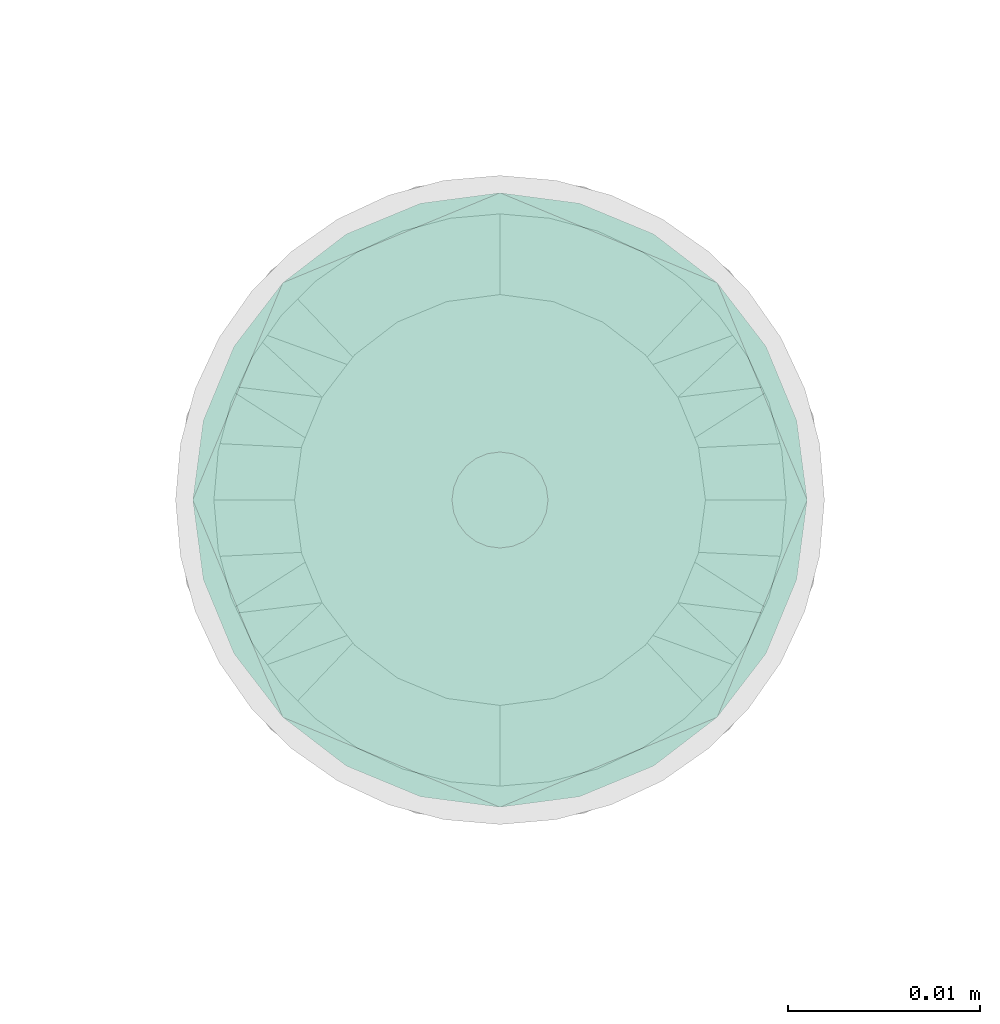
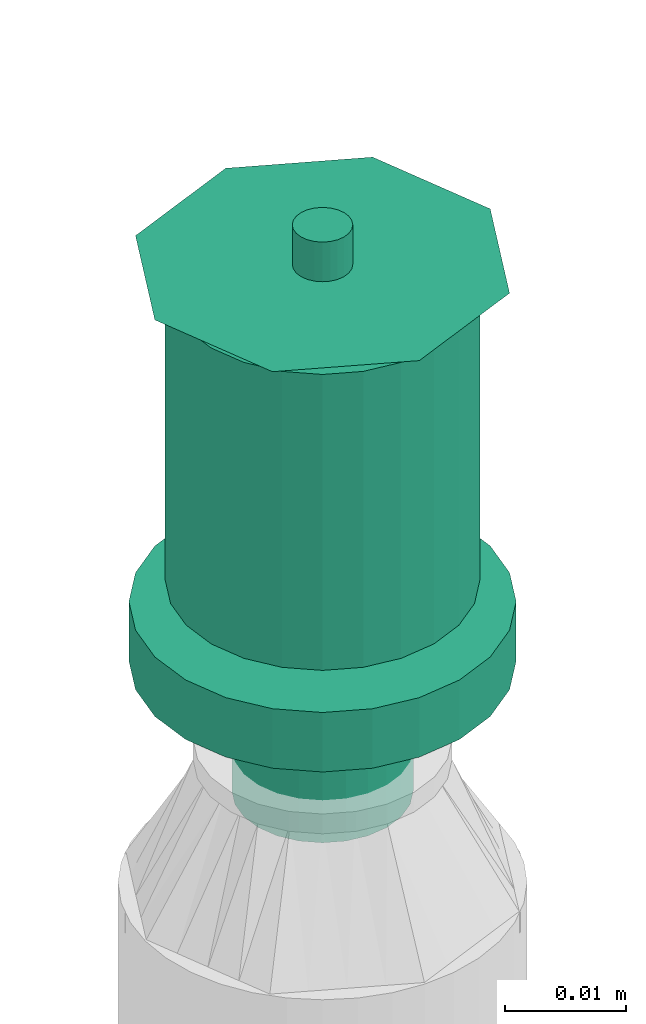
# One storey, part 14 of 44: 1 flow terminal.
"""IFC2X3 building model written with IfcOpenShell, lengths in millimetres."""

from ifc_helpers import new_model, entity, si_unit, converted_unit, derived_unit, direction, frame, origin_with_axes, place, context, subcontext, project, spatial, open_shell, surface_model, source, transform, mapped, type_object, element, save


model = new_model("IFC2X3")

# Units and contexts
model_context = context("Model", 3, precision=0.01, world=frame((0.0, 4.29681676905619e-09, 0.0)), true_north=direction((4.01073788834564e-13, 1.0)))
plan_context = context("Plan", 3, precision=0.01, world=frame((0.0, 4.29681676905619e-09, 0.0)), true_north=direction((4.01073788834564e-13, 1.0)))
body_context = subcontext(model_context, "Body", "Model", "MODEL_VIEW")
ifc_project = project(units=[converted_unit("PLANEANGLEUNIT", "DEGREE", entity("IfcPositiveLengthMeasure", 0.0174532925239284), si_unit("PLANEANGLEUNIT", "RADIAN"), dimensions=[0, 0, 0, 0, 0, 0, 0]), si_unit("AREAUNIT", "SQUARE_METRE"), si_unit("LENGTHUNIT", "METRE", prefix="MILLI"), si_unit("MASSUNIT", "GRAM", prefix="KILO"), si_unit("POWERUNIT", "WATT"), si_unit("PRESSUREUNIT", "PASCAL"), si_unit("FORCEUNIT", "NEWTON", prefix="KILO"), si_unit("ELECTRICVOLTAGEUNIT", "VOLT"), si_unit("ELECTRICCURRENTUNIT", "AMPERE"), si_unit("THERMODYNAMICTEMPERATUREUNIT", "DEGREE_CELSIUS"), si_unit("TIMEUNIT", "SECOND"), si_unit("VOLUMEUNIT", "CUBIC_METRE"), derived_unit("LINEARVELOCITYUNIT", [(si_unit("LENGTHUNIT", "METRE"), 1), (si_unit("TIMEUNIT", "SECOND"), -1)]), derived_unit("VOLUMETRICFLOWRATEUNIT", [(si_unit("VOLUMEUNIT", "CUBIC_METRE"), 1), (si_unit("TIMEUNIT", "SECOND"), -1)]), derived_unit("THERMALTRANSMITTANCEUNIT", [(si_unit("POWERUNIT", "WATT"), 1), (si_unit("THERMODYNAMICTEMPERATUREUNIT", "KELVIN"), -1), (si_unit("AREAUNIT", "SQUARE_METRE"), -1)]), derived_unit("SOUNDPRESSUREUNIT", [(si_unit("PRESSUREUNIT", "PASCAL"), 1)])], contexts=[model_context, plan_context])

# Site, building, storey
site_placement = place(None, frame((0.0, -4.29681676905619e-09, 0.0), z_axis=(0.0, 0.0, 1.0), x_axis=(1.0, 0.0, 0.0)))
site = spatial("IfcSite", under=ifc_project, at=site_placement, CompositionType="ELEMENT")
building_placement = place(site_placement, frame((0.0, 4.29681676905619e-09, 0.0), z_axis=(0.0, 0.0, 1.0), x_axis=(1.0, 0.0, 0.0)))
building = spatial("IfcBuilding", under=site, at=building_placement, Name="mc-building", CompositionType="ELEMENT")
storey_placement = place(building_placement, frame((0.0, 0.0, 207370.0), z_axis=(0.0, 0.0, 1.0), x_axis=(1.0, 0.0, 0.0)))
storey = spatial("IfcBuildingStorey", under=building, at=storey_placement, Name="Nivå E", CompositionType="ELEMENT", Elevation=207370.0)

# Flow terminal
fire_suppression_terminal_type = type_object("IfcFireSuppressionTerminalType", Name="68DGR-STD-STÅENDE", PredefinedType="NOTDEFINED")
shared_shape = source(origin_with_axes(), body_context, "Body", "SurfaceModel", [
    surface_model("IfcShellBasedSurfaceModel", [(3.36465, -12.55704, 51.0), (6.5, -11.25833, 51.0), (9.19239, -9.19239, 51.0), (12.55704, -3.36465, 51.0), (-11.25833, -6.5, 51.0), (11.25833, -6.5, 51.0), (-13.0, 0.0, 51.0), (0.0, -13.0, 51.0), (-6.5, -11.25833, 51.0), (-3.36465, -12.55704, 51.0), (-9.19239, -9.19239, 51.0), (-12.55704, -3.36465, 51.0), (13.0, 0.0, 51.0), (12.55704, 3.36465, 51.0), (11.25833, 6.5, 51.0), (9.19239, 9.19239, 51.0), (6.5, 11.25833, 51.0), (3.36465, 12.55704, 51.0), (0.0, 13.0, 51.0), (-3.36465, 12.55704, 51.0), (-12.55704, 3.36465, 51.0), (-9.19239, 9.19239, 51.0), (-11.25833, 6.5, 51.0), (-6.5, 11.25833, 51.0), (0.0, 13.0, 21.14766), (3.36465, 12.55704, 21.14766), (6.5, 11.25833, 21.14766), (-3.36465, 12.55704, 21.14766), (9.19239, 9.19239, 21.14766), (11.25833, 6.5, 21.14766), (12.55704, 3.36465, 21.14766), (-12.55704, 3.36465, 21.14766), (-11.25833, -6.5, 21.14766), (-9.19239, 9.19239, 21.14766), (-6.5, 11.25833, 21.14766), (-11.25833, 6.5, 21.14766), (-13.0, 0.0, 21.14766), (12.55704, -3.36465, 21.14766), (9.19239, -9.19239, 21.14766), (11.25833, -6.5, 21.14766), (6.5, -11.25833, 21.14766), (3.36465, -12.55704, 21.14766), (-6.5, -11.25833, 21.14766), (-9.19239, -9.19239, 21.14766), (-12.55704, -3.36465, 21.14766), (0.0, -13.0, 21.14766), (-3.36465, -12.55704, 21.14766), (13.0, 0.0, 21.14766), (7.24444, -1.94114, 0.1), (1.94114, -7.24444, 0.1), (3.75, -6.49519, 0.1), (5.3033, -5.3033, 0.1), (-5.3033, -5.3033, 0.1), (6.49519, -3.75, 0.1), (5.3033, 5.3033, 0.1), (0.0, -7.5, 0.1), (-3.75, -6.49519, 0.1), (-1.94114, -7.24444, 0.1), (-7.24444, -1.94114, 0.1), (-6.49519, -3.75, 0.1), (-7.24444, 1.94114, 0.1), (7.5, 0.0, 0.1), (6.49519, 3.75, 0.1), (-6.49519, 3.75, 0.1), (1.94114, 7.24444, 0.1), (0.0, 7.5, 0.1), (3.75, 6.49519, 0.1), (-7.5, 0.0, 0.1), (-5.3033, 5.3033, 0.1), (-1.94114, 7.24444, 0.1), (-3.75, 6.49519, 0.1), (7.24444, 1.94114, 0.1), (1.94114, 7.24444, -0.1), (-6.49519, 3.75, -0.1), (0.0, 7.5, -0.1), (5.3033, 5.3033, -0.1), (3.75, 6.49519, -0.1), (6.49519, 3.75, -0.1), (7.24444, 1.94114, -0.1), (-1.94114, 7.24444, -0.1), (-5.3033, 5.3033, -0.1), (-3.75, 6.49519, -0.1), (-7.24444, 1.94114, -0.1), (-7.24444, -1.94114, -0.1), (-7.5, 0.0, -0.1), (7.5, 0.0, -0.1), (7.24444, -1.94114, -0.1), (-5.3033, -5.3033, -0.1), (1.94114, -7.24444, -0.1), (6.49519, -3.75, -0.1), (5.3033, -5.3033, -0.1), (3.75, -6.49519, -0.1), (-6.49519, -3.75, -0.1), (-3.75, -6.49519, -0.1), (0.0, -7.5, -0.1), (-1.94114, -7.24444, -0.1), (0.0, -2.5, 51.0), (-2.5, 0.0, 51.0), (0.0, 2.5, 51.0), (2.5, 0.0, 51.0), (0.0, -16.0, 53.0), (11.31371, -11.31371, 53.0), (-11.31371, -11.31371, 53.0), (-16.0, 0.0, 53.0), (16.0, 0.0, 53.0), (11.31371, 11.31371, 53.0), (0.0, 16.0, 53.0), (-11.31371, 11.31371, 53.0), (1.25, -2.16506, 57.0), (0.0, -2.5, 57.0), (0.64705, -2.41481, 57.0), (2.41481, -0.64705, 57.0), (1.76777, -1.76777, 57.0), (-2.41481, -0.64705, 57.0), (-2.5, 0.0, 57.0), (2.16506, -1.25, 57.0), (-1.25, -2.16506, 57.0), (-0.64705, -2.41481, 57.0), (-1.76777, -1.76777, 57.0), (-2.16506, -1.25, 57.0), (2.5, 0.0, 57.0), (2.41481, 0.64705, 57.0), (2.16506, 1.25, 57.0), (1.76777, 1.76777, 57.0), (0.64705, 2.41481, 57.0), (1.25, 2.16506, 57.0), (-1.76777, 1.76777, 57.0), (0.0, 2.5, 57.0), (-2.16506, 1.25, 57.0), (-2.41481, 0.64705, 57.0), (-0.64705, 2.41481, 57.0), (-1.25, 2.16506, 57.0), (1.25, 2.16506, 51.0), (1.76777, 1.76777, 51.0), (1.15, 1.99186, 51.0), (0.59528, 2.22163, 51.0), (0.64705, 2.41481, 51.0), (0.0, 2.3, 51.0), (1.62635, 1.62635, 51.0), (2.41481, 0.64705, 51.0), (2.3, 0.0, 51.0), (2.22163, 0.59528, 51.0), (2.16506, 1.25, 51.0), (1.99186, 1.15, 51.0), (-0.59528, 2.22163, 51.0), (-0.64705, 2.41481, 51.0), (-1.15, 1.99186, 51.0), (-1.76777, 1.76777, 51.0), (-1.25, 2.16506, 51.0), (-1.62635, 1.62635, 51.0), (-1.99186, 1.15, 51.0), (-2.16506, 1.25, 51.0), (-2.22163, 0.59528, 51.0), (-2.41481, 0.64705, 51.0), (-2.3, 0.0, 51.0), (2.41481, -0.64705, 51.0), (2.22163, -0.59528, 51.0), (1.99186, -1.15, 51.0), (2.16506, -1.25, 51.0), (1.62635, -1.62635, 51.0), (1.76777, -1.76777, 51.0), (1.25, -2.16506, 51.0), (1.15, -1.99186, 51.0), (0.59528, -2.22163, 51.0), (0.64705, -2.41481, 51.0), (0.0, -2.3, 51.0), (-2.16506, -1.25, 51.0), (-1.99186, -1.15, 51.0), (-1.76777, -1.76777, 51.0), (-1.62635, -1.62635, 51.0), (-2.41481, -0.64705, 51.0), (-2.22163, -0.59528, 51.0), (-0.59528, -2.22163, 51.0), (-0.64705, -2.41481, 51.0), (-1.15, -1.99186, 51.0), (-1.25, -2.16506, 51.0), (1.62635, -1.62635, 56.8), (1.15, -1.99186, 56.8), (0.59528, -2.22163, 56.8), (0.0, -2.3, 56.8), (2.22163, 0.59528, 56.8), (1.99186, -1.15, 56.8), (2.22163, -0.59528, 56.8), (-0.59528, -2.22163, 56.8), (-1.15, -1.99186, 56.8), (-1.62635, -1.62635, 56.8), (-1.99186, -1.15, 56.8), (-2.22163, -0.59528, 56.8), (-1.99186, 1.15, 56.8), (2.3, 0.0, 56.8), (1.62635, 1.62635, 56.8), (1.99186, 1.15, 56.8), (1.15, 1.99186, 56.8), (0.0, 2.3, 56.8), (0.59528, 2.22163, 56.8), (-2.22163, 0.59528, 56.8), (-2.3, 0.0, 56.8), (-1.15, 1.99186, 56.8), (-0.59528, 2.22163, 56.8), (-1.62635, 1.62635, 56.8), (4.1411, -15.45481, 19.0), (8.0, -13.85641, 19.0), (11.31371, -11.31371, 19.0), (-8.0, -13.85641, 19.0), (15.45481, -4.1411, 19.0), (16.0, 0.0, 19.0), (13.85641, -8.0, 19.0), (0.0, -16.0, 19.0), (-4.1411, -15.45481, 19.0), (-13.85641, -8.0, 19.0), (-11.31371, -11.31371, 19.0), (-15.45481, -4.1411, 19.0), (15.45481, 4.1411, 19.0), (13.85641, 8.0, 19.0), (11.31371, 11.31371, 19.0), (-4.1411, 15.45481, 19.0), (8.0, 13.85641, 19.0), (4.1411, 15.45481, 19.0), (0.0, 16.0, 19.0), (-13.85641, 8.0, 19.0), (-15.45481, 4.1411, 19.0), (-16.0, 0.0, 19.0), (-11.31371, 11.31371, 19.0), (-8.0, 13.85641, 19.0), (0.0, 16.0, 13.0), (4.1411, 15.45481, 13.0), (8.0, 13.85641, 13.0), (-4.1411, 15.45481, 13.0), (11.31371, 11.31371, 13.0), (13.85641, 8.0, 13.0), (15.45481, 4.1411, 13.0), (-15.45481, -4.1411, 13.0), (-11.31371, 11.31371, 13.0), (-8.0, 13.85641, 13.0), (-13.85641, 8.0, 13.0), (-15.45481, 4.1411, 13.0), (-16.0, 0.0, 13.0), (4.1411, -15.45481, 13.0), (16.0, 0.0, 13.0), (15.45481, -4.1411, 13.0), (13.85641, -8.0, 13.0), (11.31371, -11.31371, 13.0), (8.0, -13.85641, 13.0), (-8.0, -13.85641, 13.0), (-13.85641, -8.0, 13.0), (-11.31371, -11.31371, 13.0), (0.0, -16.0, 13.0), (-4.1411, -15.45481, 13.0), (7.24444, -1.94114, 13.0), (1.94114, -7.24444, 13.0), (3.75, -6.49519, 13.0), (5.3033, -5.3033, 13.0), (-5.3033, -5.3033, 13.0), (6.49519, -3.75, 13.0), (5.3033, 5.3033, 13.0), (0.0, -7.5, 13.0), (-3.75, -6.49519, 13.0), (-1.94114, -7.24444, 13.0), (-7.24444, -1.94114, 13.0), (-6.49519, -3.75, 13.0), (-7.24444, 1.94114, 13.0), (7.5, 0.0, 13.0), (6.49519, 3.75, 13.0), (-6.49519, 3.75, 13.0), (1.94114, 7.24444, 13.0), (0.0, 7.5, 13.0), (3.75, 6.49519, 13.0), (-7.5, 0.0, 13.0), (-5.3033, 5.3033, 13.0), (-1.94114, 7.24444, 13.0), (-3.75, 6.49519, 13.0), (7.24444, 1.94114, 13.0), (3.75, 6.49519, 0.0), (5.3033, 5.3033, 0.0), (3.65, 6.32199, 0.0), (1.88938, 7.05126, 0.0), (0.0, 7.3, 0.0), (1.94114, 7.24444, 0.0), (0.0, 7.5, 0.0), (5.16188, 5.16188, 0.0), (7.24444, 1.94114, 0.0), (7.3, 0.0, 0.0), (7.05126, 1.88938, 0.0), (7.5, 0.0, 0.0), (6.49519, 3.75, 0.0), (6.32199, 3.65, 0.0), (-1.88938, 7.05126, 0.0), (-1.94114, 7.24444, 0.0), (-3.65, 6.32199, 0.0), (-5.3033, 5.3033, 0.0), (-3.75, 6.49519, 0.0), (-5.16188, 5.16188, 0.0), (-6.32199, 3.65, 0.0), (-6.49519, 3.75, 0.0), (-7.05126, 1.88938, 0.0), (-7.24444, 1.94114, 0.0), (-7.3, 0.0, 0.0), (-7.5, 0.0, 0.0), (7.24444, -1.94114, 0.0), (7.05126, -1.88938, 0.0), (6.32199, -3.65, 0.0), (6.49519, -3.75, 0.0), (5.16188, -5.16188, 0.0), (5.3033, -5.3033, 0.0), (3.75, -6.49519, 0.0), (3.65, -6.32199, 0.0), (1.88938, -7.05126, 0.0), (1.94114, -7.24444, 0.0), (0.0, -7.3, 0.0), (0.0, -7.5, 0.0), (-6.49519, -3.75, 0.0), (-6.32199, -3.65, 0.0), (-5.3033, -5.3033, 0.0), (-5.16188, -5.16188, 0.0), (-7.24444, -1.94114, 0.0), (-7.05126, -1.88938, 0.0), (-1.88938, -7.05126, 0.0), (-1.94114, -7.24444, 0.0), (-3.65, -6.32199, 0.0), (-3.75, -6.49519, 0.0), (1.88938, -7.05126, 12.8), (0.0, -7.3, 12.8), (3.65, -6.32199, 12.8), (5.16188, -5.16188, 12.8), (6.32199, -3.65, 12.8), (7.05126, 1.88938, 12.8), (7.05126, -1.88938, 12.8), (-5.16188, -5.16188, 12.8), (-1.88938, -7.05126, 12.8), (-3.65, -6.32199, 12.8), (-6.32199, -3.65, 12.8), (-7.05126, -1.88938, 12.8), (0.0, 7.3, 12.8), (7.3, 0.0, 12.8), (6.32199, 3.65, 12.8), (5.16188, 5.16188, 12.8), (3.65, 6.32199, 12.8), (1.88938, 7.05126, 12.8), (-6.32199, 3.65, 12.8), (-7.05126, 1.88938, 12.8), (-7.3, 0.0, 12.8), (-3.65, 6.32199, 12.8), (-1.88938, 7.05126, 12.8), (-5.16188, 5.16188, 12.8)], [open_shell([[[0, 1, 2]], [[0, 2, 3]], [[0, 3, 4]], [[3, 2, 5]], [[6, 4, 3]], [[7, 8, 9]], [[7, 0, 8]], [[8, 4, 10]], [[0, 4, 8]], [[4, 6, 11]], [[6, 3, 12]], [[13, 14, 15]], [[6, 13, 15]], [[16, 17, 18]], [[15, 16, 19]], [[18, 19, 16]], [[20, 21, 22]], [[20, 6, 15]], [[21, 19, 23]], [[19, 21, 20]], [[15, 19, 20]], [[13, 6, 12]], [[24, 25, 26]], [[27, 24, 26]], [[28, 29, 30]], [[26, 28, 31]], [[28, 32, 31]], [[27, 33, 34]], [[33, 27, 31]], [[33, 31, 35]], [[27, 26, 31]], [[31, 32, 36]], [[32, 28, 30]], [[32, 30, 37]], [[38, 37, 39]], [[38, 40, 41]], [[38, 41, 37]], [[32, 37, 41]], [[32, 42, 43]], [[44, 36, 32]], [[42, 45, 46]], [[42, 32, 41]], [[45, 42, 41]], [[30, 47, 37]], [[4, 32, 43]], [[8, 42, 46]], [[43, 42, 10]], [[9, 46, 45]], [[36, 11, 6]], [[11, 36, 44]], [[11, 44, 4]], [[44, 32, 4]], [[43, 10, 4]], [[8, 10, 42]], [[46, 9, 8]], [[45, 7, 9]], [[0, 41, 40]], [[38, 1, 40]], [[5, 39, 37]], [[38, 39, 2]], [[3, 37, 47]], [[41, 0, 7]], [[40, 1, 0]], [[38, 2, 1]], [[39, 5, 2]], [[3, 5, 37]], [[47, 12, 3]], [[41, 7, 45]], [[30, 13, 47]], [[29, 14, 30]], [[25, 24, 17]], [[15, 29, 28]], [[30, 14, 13]], [[13, 12, 47]], [[16, 26, 17]], [[16, 15, 28]], [[26, 25, 17]], [[15, 14, 29]], [[28, 26, 16]], [[24, 18, 17]], [[19, 27, 34]], [[33, 23, 34]], [[22, 35, 31]], [[33, 35, 21]], [[20, 31, 36]], [[27, 19, 18]], [[34, 23, 19]], [[33, 21, 23]], [[35, 22, 21]], [[20, 22, 31]], [[36, 6, 20]], [[27, 18, 24]], [[48, 49, 50]], [[48, 50, 51]], [[49, 48, 52]], [[48, 51, 53]], [[54, 52, 48]], [[55, 56, 57]], [[56, 55, 52]], [[52, 58, 59]], [[52, 55, 49]], [[52, 60, 58]], [[54, 48, 61]], [[62, 54, 61]], [[54, 63, 52]], [[64, 65, 54]], [[64, 54, 66]], [[63, 54, 65]], [[63, 60, 52]], [[67, 58, 60]], [[68, 69, 70]], [[69, 68, 63]], [[69, 63, 65]], [[71, 62, 61]], [[72, 73, 74]], [[75, 72, 76]], [[75, 77, 78]], [[72, 75, 73]], [[78, 73, 75]], [[79, 80, 81]], [[80, 79, 73]], [[74, 73, 79]], [[78, 82, 73]], [[82, 83, 84]], [[82, 78, 85]], [[86, 87, 85]], [[88, 86, 89]], [[90, 91, 88]], [[90, 88, 89]], [[87, 86, 88]], [[83, 87, 92]], [[83, 85, 87]], [[93, 94, 95]], [[94, 93, 87]], [[88, 94, 87]], [[85, 83, 82]], [[83, 58, 84]], [[92, 59, 83]], [[56, 87, 93]], [[92, 87, 52]], [[57, 93, 95]], [[83, 59, 58]], [[58, 67, 84]], [[57, 56, 93]], [[52, 87, 56]], [[52, 59, 92]], [[55, 57, 95]], [[95, 94, 55]], [[88, 49, 94]], [[91, 50, 88]], [[53, 90, 89]], [[91, 90, 51]], [[48, 89, 86]], [[91, 51, 50]], [[50, 49, 88]], [[61, 48, 86]], [[53, 89, 48]], [[53, 51, 90]], [[85, 61, 86]], [[94, 49, 55]], [[78, 71, 85]], [[77, 62, 78]], [[66, 75, 76]], [[77, 75, 54]], [[64, 76, 72]], [[78, 62, 71]], [[71, 61, 85]], [[64, 66, 76]], [[54, 75, 66]], [[54, 62, 77]], [[65, 64, 72]], [[72, 74, 65]], [[79, 69, 74]], [[81, 70, 79]], [[63, 80, 73]], [[81, 80, 68]], [[60, 73, 82]], [[81, 68, 70]], [[70, 69, 79]], [[67, 60, 82]], [[63, 73, 60]], [[63, 68, 80]], [[84, 67, 82]], [[74, 69, 65]], [[96, 97, 98]], [[98, 99, 96]], [[100, 101, 102]], [[103, 102, 101]], [[101, 104, 103]], [[104, 105, 106]], [[107, 103, 106]], [[106, 103, 104]], [[99, 98, 105]], [[105, 104, 99]], [[98, 106, 105]], [[98, 107, 106]], [[107, 98, 97]], [[103, 107, 97]], [[97, 96, 102]], [[102, 103, 97]], [[96, 100, 102]], [[96, 101, 100]], [[101, 96, 99]], [[104, 101, 99]], [[108, 109, 110]], [[111, 108, 112]], [[113, 108, 114]], [[111, 112, 115]], [[108, 111, 114]], [[109, 116, 117]], [[116, 109, 118]], [[118, 113, 119]], [[118, 109, 108]], [[108, 113, 118]], [[111, 120, 114]], [[121, 122, 123]], [[114, 121, 123]], [[114, 123, 124]], [[124, 123, 125]], [[126, 124, 127]], [[124, 128, 129]], [[129, 114, 124]], [[126, 130, 131]], [[128, 124, 126]], [[130, 126, 127]], [[121, 114, 120]], [[132, 133, 134]], [[132, 134, 135]], [[136, 135, 137]], [[135, 136, 132]], [[136, 137, 98]], [[134, 133, 138]], [[139, 140, 141]], [[140, 139, 99]], [[139, 141, 142]], [[138, 142, 143]], [[142, 138, 133]], [[143, 142, 141]], [[98, 144, 145]], [[98, 137, 144]], [[145, 144, 146]], [[147, 148, 149]], [[146, 148, 145]], [[149, 148, 146]], [[150, 151, 147]], [[151, 150, 152]], [[150, 147, 149]], [[153, 152, 154]], [[152, 153, 151]], [[153, 154, 97]], [[99, 155, 156]], [[156, 155, 157]], [[157, 158, 159]], [[158, 157, 155]], [[159, 158, 160]], [[160, 161, 162]], [[162, 161, 163]], [[163, 164, 165]], [[164, 163, 161]], [[165, 164, 96]], [[162, 159, 160]], [[166, 167, 168]], [[168, 167, 169]], [[167, 166, 170]], [[97, 171, 170]], [[170, 171, 167]], [[97, 154, 171]], [[172, 96, 173]], [[172, 173, 174]], [[169, 175, 168]], [[175, 169, 174]], [[175, 174, 173]], [[165, 96, 172]], [[156, 140, 99]], [[170, 113, 97]], [[166, 119, 170]], [[116, 168, 175]], [[166, 168, 118]], [[117, 175, 173]], [[170, 119, 113]], [[113, 114, 97]], [[117, 116, 175]], [[118, 168, 116]], [[118, 119, 166]], [[109, 117, 173]], [[173, 96, 109]], [[164, 110, 96]], [[161, 108, 164]], [[115, 160, 158]], [[161, 160, 112]], [[111, 158, 155]], [[161, 112, 108]], [[108, 110, 164]], [[120, 111, 155]], [[115, 158, 111]], [[115, 112, 160]], [[99, 120, 155]], [[96, 110, 109]], [[139, 121, 99]], [[142, 122, 139]], [[125, 133, 132]], [[142, 133, 123]], [[124, 132, 136]], [[139, 122, 121]], [[121, 120, 99]], [[124, 125, 132]], [[123, 133, 125]], [[123, 122, 142]], [[127, 124, 136]], [[136, 98, 127]], [[145, 130, 98]], [[148, 131, 145]], [[128, 147, 151]], [[148, 147, 126]], [[129, 151, 153]], [[148, 126, 131]], [[131, 130, 145]], [[114, 129, 153]], [[128, 151, 129]], [[128, 126, 147]], [[97, 114, 153]], [[98, 130, 127]], [[176, 177, 178]], [[176, 178, 179]], [[180, 176, 179]], [[181, 176, 182]], [[180, 182, 176]], [[183, 184, 179]], [[185, 179, 184]], [[186, 187, 185]], [[185, 187, 188]], [[179, 185, 188]], [[189, 182, 180]], [[190, 191, 180]], [[192, 190, 180]], [[193, 194, 192]], [[180, 193, 192]], [[188, 193, 180]], [[195, 188, 196]], [[196, 188, 187]], [[197, 198, 199]], [[188, 199, 198]], [[188, 198, 193]], [[180, 179, 188]], [[154, 187, 171]], [[171, 186, 167]], [[174, 169, 184]], [[185, 169, 167]], [[172, 174, 183]], [[187, 186, 171]], [[154, 196, 187]], [[174, 184, 183]], [[184, 169, 185]], [[167, 186, 185]], [[172, 183, 179]], [[179, 165, 172]], [[165, 178, 163]], [[163, 177, 162]], [[157, 159, 181]], [[176, 159, 162]], [[156, 157, 182]], [[177, 176, 162]], [[163, 178, 177]], [[156, 182, 189]], [[182, 157, 181]], [[159, 176, 181]], [[156, 189, 140]], [[179, 178, 165]], [[140, 180, 141]], [[141, 191, 143]], [[134, 138, 192]], [[190, 138, 143]], [[135, 134, 194]], [[180, 191, 141]], [[140, 189, 180]], [[134, 192, 194]], [[192, 138, 190]], [[143, 191, 190]], [[135, 194, 193]], [[193, 137, 135]], [[137, 198, 144]], [[144, 197, 146]], [[150, 149, 188]], [[199, 149, 146]], [[152, 150, 195]], [[197, 199, 146]], [[144, 198, 197]], [[152, 195, 196]], [[195, 150, 188]], [[149, 199, 188]], [[152, 196, 154]], [[193, 198, 137]], [[200, 201, 202]], [[203, 200, 202]], [[204, 205, 202]], [[204, 202, 206]], [[203, 202, 205]], [[207, 203, 208]], [[207, 200, 203]], [[203, 209, 210]], [[209, 203, 211]], [[205, 211, 203]], [[205, 212, 211]], [[212, 213, 214]], [[215, 212, 214]], [[216, 217, 218]], [[214, 216, 215]], [[218, 215, 216]], [[211, 219, 220]], [[221, 211, 220]], [[222, 215, 223]], [[215, 222, 219]], [[219, 211, 215]], [[211, 212, 215]], [[224, 225, 226]], [[227, 224, 226]], [[228, 229, 230]], [[227, 226, 228]], [[227, 228, 231]], [[227, 232, 233]], [[232, 227, 234]], [[234, 231, 235]], [[231, 234, 227]], [[235, 231, 236]], [[228, 230, 231]], [[237, 238, 239]], [[237, 239, 240]], [[241, 242, 237]], [[241, 237, 240]], [[238, 237, 243]], [[244, 243, 245]], [[243, 244, 231]], [[243, 246, 247]], [[243, 231, 238]], [[237, 246, 243]], [[238, 231, 230]], [[231, 211, 236]], [[244, 209, 231]], [[203, 245, 243]], [[244, 245, 210]], [[208, 243, 247]], [[231, 209, 211]], [[211, 221, 236]], [[208, 203, 243]], [[210, 245, 203]], [[210, 209, 244]], [[207, 208, 247]], [[247, 246, 207]], [[237, 200, 246]], [[242, 201, 237]], [[206, 241, 240]], [[242, 241, 202]], [[204, 240, 239]], [[242, 202, 201]], [[201, 200, 237]], [[205, 204, 239]], [[206, 240, 204]], [[206, 202, 241]], [[238, 205, 239]], [[246, 200, 207]], [[230, 212, 238]], [[229, 213, 230]], [[216, 228, 226]], [[229, 228, 214]], [[217, 226, 225]], [[230, 213, 212]], [[212, 205, 238]], [[217, 216, 226]], [[214, 228, 216]], [[214, 213, 229]], [[218, 217, 225]], [[225, 224, 218]], [[227, 215, 224]], [[233, 223, 227]], [[219, 232, 234]], [[233, 232, 222]], [[220, 234, 235]], [[233, 222, 223]], [[223, 215, 227]], [[221, 220, 235]], [[219, 234, 220]], [[219, 222, 232]], [[236, 221, 235]], [[224, 215, 218]], [[248, 249, 250]], [[248, 250, 251]], [[249, 248, 252]], [[248, 251, 253]], [[254, 252, 248]], [[255, 256, 257]], [[256, 255, 252]], [[252, 258, 259]], [[252, 255, 249]], [[252, 260, 258]], [[254, 248, 261]], [[262, 254, 261]], [[254, 263, 252]], [[264, 265, 254]], [[264, 254, 266]], [[263, 254, 265]], [[263, 260, 252]], [[267, 258, 260]], [[268, 269, 270]], [[269, 268, 263]], [[269, 263, 265]], [[271, 262, 261]], [[272, 273, 274]], [[272, 274, 275]], [[276, 277, 275]], [[277, 276, 278]], [[275, 277, 272]], [[274, 273, 279]], [[280, 281, 282]], [[281, 280, 283]], [[280, 282, 284]], [[279, 284, 285]], [[284, 279, 273]], [[285, 284, 282]], [[278, 286, 287]], [[287, 286, 288]], [[289, 290, 291]], [[288, 290, 287]], [[288, 291, 290]], [[278, 276, 286]], [[292, 293, 289]], [[293, 292, 294]], [[292, 289, 291]], [[295, 294, 296]], [[294, 295, 293]], [[295, 296, 297]], [[283, 298, 299]], [[299, 298, 300]], [[300, 301, 302]], [[301, 300, 298]], [[302, 301, 303]], [[303, 304, 305]], [[305, 304, 306]], [[306, 307, 308]], [[307, 306, 304]], [[308, 307, 309]], [[305, 302, 303]], [[310, 311, 312]], [[312, 311, 313]], [[311, 310, 314]], [[297, 315, 314]], [[314, 315, 311]], [[297, 296, 315]], [[316, 309, 317]], [[316, 317, 318]], [[313, 319, 312]], [[313, 318, 319]], [[319, 318, 317]], [[308, 309, 316]], [[299, 281, 283]], [[314, 258, 297]], [[310, 259, 314]], [[256, 312, 319]], [[310, 312, 252]], [[257, 319, 317]], [[314, 259, 258]], [[258, 267, 297]], [[257, 256, 319]], [[252, 312, 256]], [[252, 259, 310]], [[255, 257, 317]], [[317, 309, 255]], [[307, 249, 309]], [[304, 250, 307]], [[253, 303, 301]], [[304, 303, 251]], [[248, 301, 298]], [[304, 251, 250]], [[250, 249, 307]], [[261, 248, 298]], [[253, 301, 248]], [[253, 251, 303]], [[283, 261, 298]], [[309, 249, 255]], [[280, 271, 283]], [[284, 262, 280]], [[266, 273, 272]], [[284, 273, 254]], [[264, 272, 277]], [[280, 262, 271]], [[271, 261, 283]], [[264, 266, 272]], [[254, 273, 266]], [[254, 262, 284]], [[265, 264, 277]], [[277, 278, 265]], [[287, 269, 278]], [[290, 270, 287]], [[263, 289, 293]], [[290, 289, 268]], [[260, 293, 295]], [[290, 268, 270]], [[270, 269, 287]], [[267, 260, 295]], [[263, 293, 260]], [[263, 268, 289]], [[297, 267, 295]], [[278, 269, 265]], [[320, 321, 322]], [[323, 322, 324]], [[325, 326, 322]], [[324, 322, 326]], [[322, 327, 325]], [[328, 329, 321]], [[327, 321, 329]], [[330, 331, 327]], [[322, 321, 327]], [[331, 332, 327]], [[326, 325, 333]], [[334, 325, 332]], [[335, 334, 336]], [[332, 337, 336]], [[334, 332, 336]], [[331, 338, 332]], [[339, 338, 340]], [[340, 338, 331]], [[341, 342, 343]], [[332, 338, 343]], [[332, 343, 342]], [[332, 325, 327]], [[296, 331, 315]], [[315, 330, 311]], [[318, 313, 329]], [[327, 313, 311]], [[316, 318, 328]], [[331, 330, 315]], [[296, 340, 331]], [[318, 329, 328]], [[329, 313, 327]], [[311, 330, 327]], [[316, 328, 321]], [[321, 308, 316]], [[308, 320, 306]], [[306, 322, 305]], [[300, 302, 324]], [[323, 302, 305]], [[299, 300, 326]], [[322, 323, 305]], [[306, 320, 322]], [[299, 326, 333]], [[326, 300, 324]], [[302, 323, 324]], [[299, 333, 281]], [[321, 320, 308]], [[281, 325, 282]], [[282, 334, 285]], [[274, 279, 336]], [[335, 279, 285]], [[275, 274, 337]], [[325, 334, 282]], [[281, 333, 325]], [[274, 336, 337]], [[336, 279, 335]], [[285, 334, 335]], [[275, 337, 332]], [[332, 276, 275]], [[276, 342, 286]], [[286, 341, 288]], [[292, 291, 338]], [[343, 291, 288]], [[294, 292, 339]], [[341, 343, 288]], [[286, 342, 341]], [[294, 339, 340]], [[339, 292, 338]], [[291, 343, 338]], [[294, 340, 296]], [[332, 342, 276]]])]),
])
flow_terminal_placement = place(storey_placement, frame((533500.0, 447009.83177, 3036.95754999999), z_axis=(0.0, 0.0, 1.0), x_axis=(1.0, 0.0, 0.0)))
element("IfcFlowTerminal", 1, at=flow_terminal_placement, inside=storey, type_object=fire_suppression_terminal_type, Name="68DGR-STD-STÅENDE", context=body_context, shape_type="MappedRepresentation", body=[
    mapped(shared_shape, transform((0.0, 0.0, 0.0), scale=1.0)),
])

save(model, "model.ifc")
